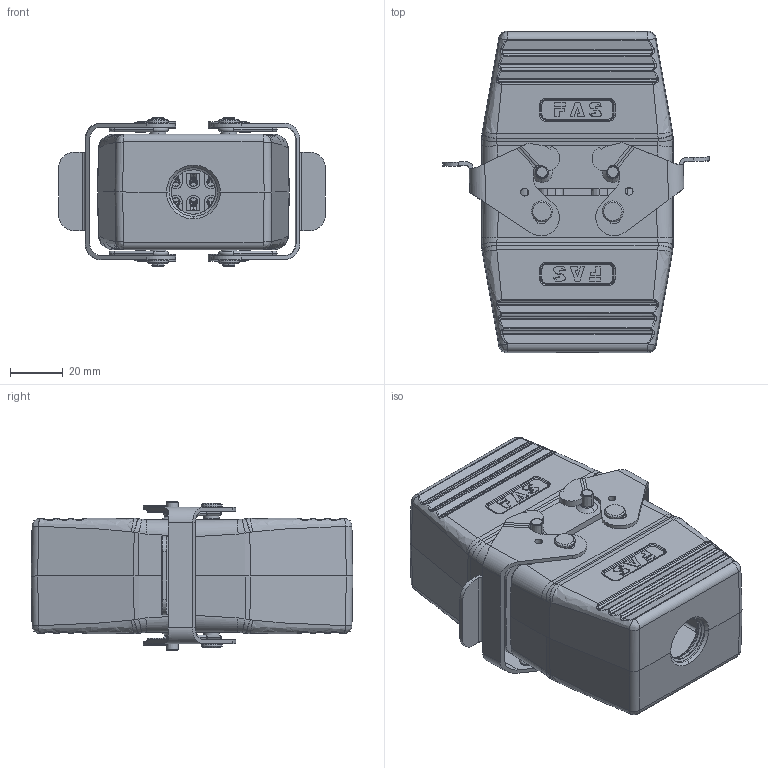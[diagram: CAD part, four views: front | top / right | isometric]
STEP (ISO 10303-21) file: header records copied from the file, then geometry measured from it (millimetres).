
FILE_DESCRIPTION (( 'STEP AP214' ), '1' );
FILE_NAME ('09010109220 HE、10针、对接底座、顶出M20套件.STEP', '2024-04-26T08:55:05', ( 'L' ), ( '' ), 'SwSTEP 2.0', 'SolidWorks 2019', '' );
FILE_SCHEMA (( 'AUTOMOTIVE_DESIGN' ));
Length unit declared in the file: millimetre
Products named in the file (5): H10B-TG-M20.step; HE-010-F.stp; H10B-TBF-M20.step; 09010109220 HE、10针、对接底座、顶出M20套件; HE-010-M.stp
Assembly tree (4 placements, depth 2):
  09010109220 HE、10针、对接底座、顶出M20套件
    HE-010-F.stp
    HE-010-M.stp
    H10B-TG-M20.step
    H10B-TBF-M20.step
Bounding box: 101.61 x 122.5 x 56.4 mm (x, y, z)
Volume: 185183.6 mm3; surface area: 110228.3 mm2
Topology: 4 solids, 4 shells, 4944 faces, 13353 edges, 8417 vertices
Faces by surface type: plane 2307, cylinder 1047, bspline 966, cone 415, torus 165, sphere 44
Entity records: 211091 total; most frequent: CARTESIAN_POINT 81949, ORIENTED_EDGE 26450, DIRECTION 21283, EDGE_CURVE 13225, VERTEX_POINT 8393, VECTOR 7225, LINE 7225, AXIS2_PLACEMENT_3D 7029
